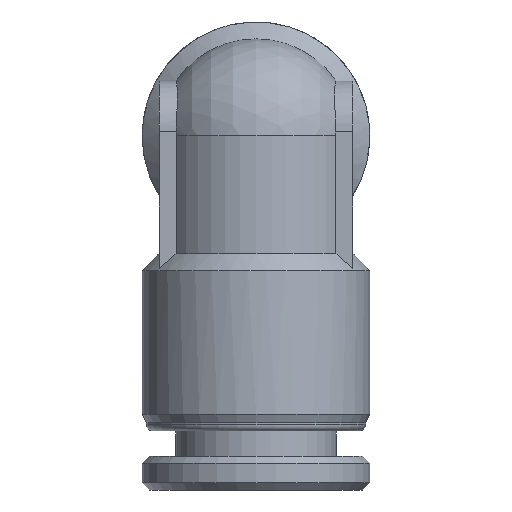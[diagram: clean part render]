
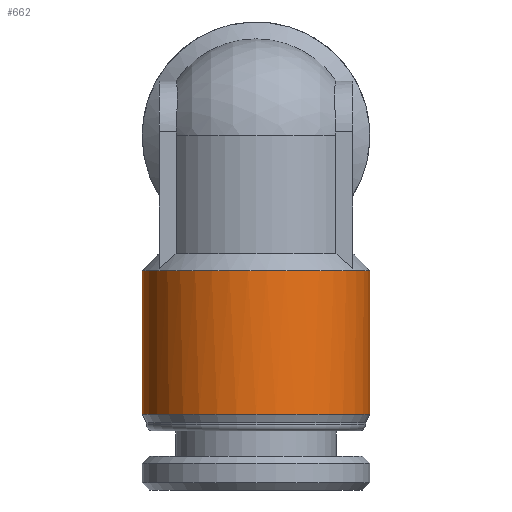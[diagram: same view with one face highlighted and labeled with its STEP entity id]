
A CAD part, front view. The second image highlights one B-rep face of the part: STEP entity #662.
In plain terms, the highlighted cylindrical face has radius 6.75 mm (diameter 13.5 mm), a full revolution.
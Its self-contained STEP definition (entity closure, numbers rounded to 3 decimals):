
#117=CIRCLE('',#714,6.75);
#143=CIRCLE('',#762,6.75);
#238=ORIENTED_EDGE('',*,*,#344,.F.);
#239=ORIENTED_EDGE('',*,*,#372,.T.);
#344=EDGE_CURVE('',#419,#419,#117,.T.);
#372=EDGE_CURVE('',#445,#445,#143,.T.);
#419=VERTEX_POINT('',#1108);
#445=VERTEX_POINT('',#1192);
#512=EDGE_LOOP('',(#238));
#513=EDGE_LOOP('',(#239));
#590=FACE_BOUND('',#512,.T.);
#591=FACE_BOUND('',#513,.T.);
#627=CYLINDRICAL_SURFACE('',#763,6.75);
#662=ADVANCED_FACE('',(#590,#591),#627,.T.);
#714=AXIS2_PLACEMENT_3D('',#1107,#837,#838);
#762=AXIS2_PLACEMENT_3D('',#1191,#933,#934);
#763=AXIS2_PLACEMENT_3D('',#1193,#935,#936);
#837=DIRECTION('',(0.,0.,1.));
#838=DIRECTION('',(1.,0.,0.));
#933=DIRECTION('',(0.,0.,1.));
#934=DIRECTION('',(1.,0.,0.));
#935=DIRECTION('',(0.,0.,1.));
#936=DIRECTION('',(1.,0.,0.));
#1107=CARTESIAN_POINT('',(0.,0.,-8.));
#1108=CARTESIAN_POINT('',(6.75,0.,-8.));
#1191=CARTESIAN_POINT('',(0.,0.,-16.5));
#1192=CARTESIAN_POINT('',(6.75,0.,-16.5));
#1193=CARTESIAN_POINT('',(0.,0.,0.));
